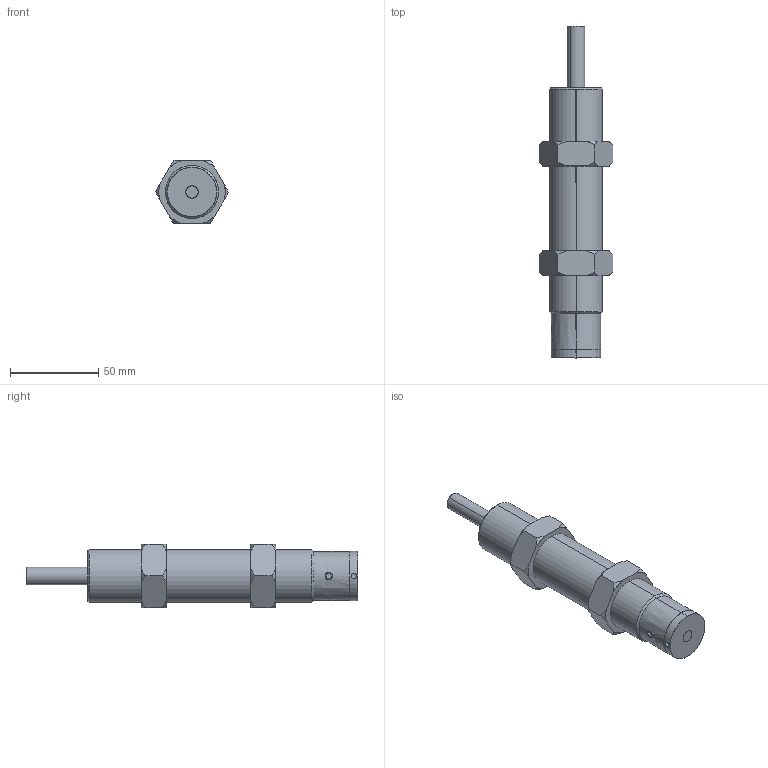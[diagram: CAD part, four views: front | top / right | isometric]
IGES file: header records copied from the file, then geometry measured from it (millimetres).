
Start section: SolidWorks IGES file using analytic representation for surfaces
Bounding box: 41.57 x 188 x 36.19 mm (x, y, z)
Surface area: 24543.9 mm2 (no closed solid volume)
Topology: 0 solids, 0 shells, 97 faces, 1780 edges, 1780 vertices
Faces by surface type: revolution 62, bspline 35
